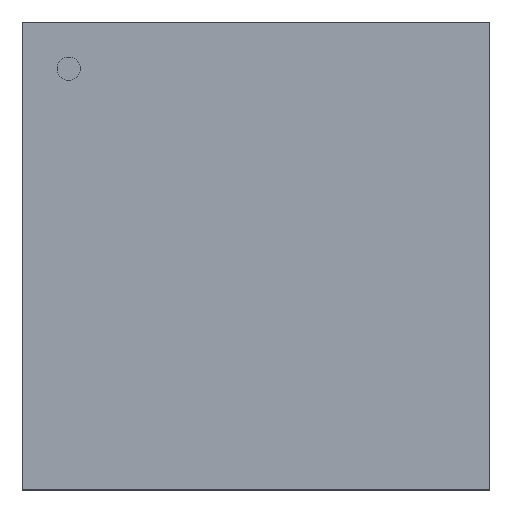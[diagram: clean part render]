
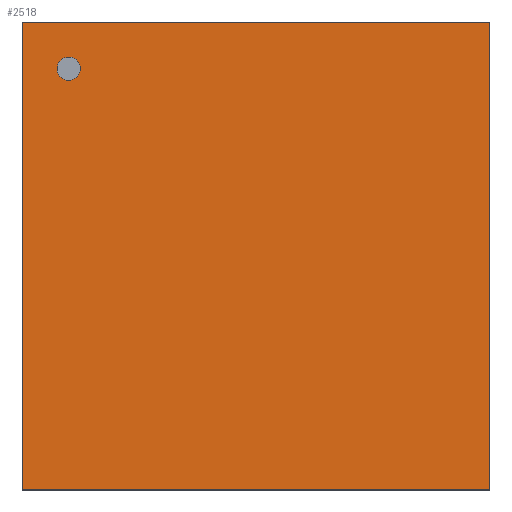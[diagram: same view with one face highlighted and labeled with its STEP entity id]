
A CAD part, top view. The second image highlights one B-rep face of the part: STEP entity #2518.
In plain terms, the highlighted planar face has unit normal (0, 0, 1).
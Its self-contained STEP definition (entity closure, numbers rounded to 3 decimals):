
#2294=CARTESIAN_POINT('',(5.004,-5.004,0.991));
#2293=VERTEX_POINT('',#2294);
#2304=CARTESIAN_POINT('',(-5.004,-5.004,0.991));
#2303=VERTEX_POINT('',#2304);
#2302=EDGE_CURVE('',#2303,#2293,#2307,.T.);
#2307=LINE('',#2304,#2309);
#2309=VECTOR('',#2310,10.008);
#2310=DIRECTION('',(1.0,0.0,0.0));
#2343=CARTESIAN_POINT('',(5.004,5.004,0.991));
#2342=VERTEX_POINT('',#2343);
#2351=EDGE_CURVE('',#2293,#2342,#2356,.T.);
#2356=LINE('',#2294,#2358);
#2358=VECTOR('',#2359,10.008);
#2359=DIRECTION('',(0.0,1.0,0.0));
#2392=CARTESIAN_POINT('',(-5.004,5.004,0.991));
#2391=VERTEX_POINT('',#2392);
#2400=EDGE_CURVE('',#2342,#2391,#2405,.T.);
#2405=LINE('',#2343,#2407);
#2407=VECTOR('',#2408,10.008);
#2408=DIRECTION('',(-1.0,0.0,0.0));
#2449=EDGE_CURVE('',#2391,#2303,#2454,.T.);
#2454=LINE('',#2392,#2456);
#2456=VECTOR('',#2457,10.008);
#2457=DIRECTION('',(0.0,-1.0,0.0));
#2518=ADVANCED_FACE('',(#2524),#2519,.T.);
#2519=PLANE('',#2520);
#2520=AXIS2_PLACEMENT_3D('',#2521,#2522,#2523);
#2521=CARTESIAN_POINT('',(-5.004,-5.004,0.991));
#2522=DIRECTION('',(0.0,0.0,1.0));
#2523=DIRECTION('',(0.,1.,0.));
#2524=FACE_OUTER_BOUND('',#2525,.T.);
#2525=EDGE_LOOP('',(#2526,#2536,#2546,#2556));
#2526=ORIENTED_EDGE('',*,*,#2302,.T.);
#2536=ORIENTED_EDGE('',*,*,#2351,.T.);
#2546=ORIENTED_EDGE('',*,*,#2400,.T.);
#2556=ORIENTED_EDGE('',*,*,#2449,.T.);
